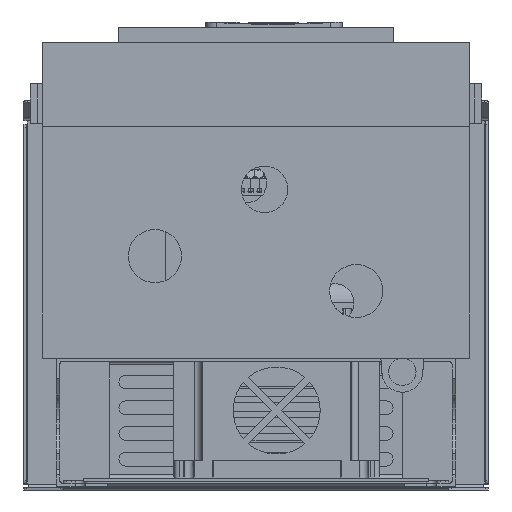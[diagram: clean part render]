
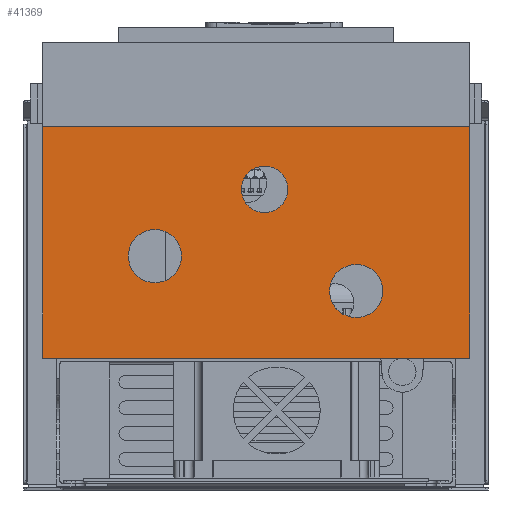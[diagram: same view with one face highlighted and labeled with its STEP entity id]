
A CAD part, front view. The second image highlights one B-rep face of the part: STEP entity #41369.
In plain terms, the highlighted planar face has unit normal (0, -1, 0).
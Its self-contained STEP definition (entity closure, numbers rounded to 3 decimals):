
#38653=DIRECTION('',(1.,0.,0.));
#38654=VECTOR('',#38653,38.847);
#38655=CARTESIAN_POINT('',(85.889,-199.834,
0.));
#38656=LINE('',#38655,#38654);
#38669=DIRECTION('',(1.,0.,0.));
#38670=VECTOR('',#38669,209.421);
#38671=CARTESIAN_POINT('',(-124.521,-199.834,0.));
#38672=LINE('',#38671,#38670);
#38760=DIRECTION('',(1.,0.,0.));
#38761=VECTOR('',#38760,249.257);
#38762=CARTESIAN_POINT('',(-124.521,-199.834,135.));
#38763=LINE('',#38762,#38761);
#38764=CARTESIAN_POINT('',(85.394,-199.834,
-7.985));
#38765=DIRECTION('',(0.,-1.,0.));
#38766=DIRECTION('',(0.062,0.,0.998));
#38767=AXIS2_PLACEMENT_3D('',#38764,#38765,#38766);
#38769=DIRECTION('',(0.,0.,1.));
#38770=VECTOR('',#38769,135.);
#38771=CARTESIAN_POINT('',(-124.521,-199.834,0.));
#38772=LINE('',#38771,#38770);
#38773=CARTESIAN_POINT('',(58.48,-199.834,39.13));
#38774=DIRECTION('',(0.,-1.,0.));
#38775=DIRECTION('',(1.,0.,0.));
#38776=AXIS2_PLACEMENT_3D('',#38773,#38774,#38775);
#38778=CARTESIAN_POINT('',(58.48,-199.834,39.13));
#38779=DIRECTION('',(0.,-1.,0.));
#38780=DIRECTION('',(-1.,0.,0.));
#38781=AXIS2_PLACEMENT_3D('',#38778,#38779,#38780);
#38783=CARTESIAN_POINT('',(5.,-199.834,98.5));
#38784=DIRECTION('',(0.,-1.,0.));
#38785=DIRECTION('',(1.,0.,0.));
#38786=AXIS2_PLACEMENT_3D('',#38783,#38784,#38785);
#38788=CARTESIAN_POINT('',(5.,-199.834,98.5));
#38789=DIRECTION('',(0.,-1.,0.));
#38790=DIRECTION('',(-1.,0.,0.));
#38791=AXIS2_PLACEMENT_3D('',#38788,#38789,#38790);
#38793=CARTESIAN_POINT('',(-59.,-199.834,59.5));
#38794=DIRECTION('',(0.,-1.,0.));
#38795=DIRECTION('',(1.,0.,0.));
#38796=AXIS2_PLACEMENT_3D('',#38793,#38794,#38795);
#38798=CARTESIAN_POINT('',(-59.,-199.834,59.5));
#38799=DIRECTION('',(0.,-1.,0.));
#38800=DIRECTION('',(-1.,0.,0.));
#38801=AXIS2_PLACEMENT_3D('',#38798,#38799,#38800);
#38859=DIRECTION('',(0.,0.,1.));
#38860=VECTOR('',#38859,135.);
#38861=CARTESIAN_POINT('',(124.736,-199.834,0.));
#38862=LINE('',#38861,#38860);
#40570=CARTESIAN_POINT('',(85.889,-199.834,
0.));
#40571=VERTEX_POINT('',#40570);
#40572=CARTESIAN_POINT('',(124.736,-199.834,0.));
#40573=VERTEX_POINT('',#40572);
#40578=CARTESIAN_POINT('',(-124.521,-199.834,0.));
#40579=VERTEX_POINT('',#40578);
#40580=CARTESIAN_POINT('',(84.899,-199.834,
0.));
#40581=VERTEX_POINT('',#40580);
#40610=CARTESIAN_POINT('',(-124.521,-199.834,135.));
#40611=CARTESIAN_POINT('',(124.736,-199.834,135.));
#40612=VERTEX_POINT('',#40610);
#40613=VERTEX_POINT('',#40611);
#40614=CARTESIAN_POINT('',(73.975,-199.834,39.13));
#40615=CARTESIAN_POINT('',(42.985,-199.834,39.13));
#40616=VERTEX_POINT('',#40614);
#40617=VERTEX_POINT('',#40615);
#40618=CARTESIAN_POINT('',(18.577,-199.834,98.5));
#40619=CARTESIAN_POINT('',(-8.577,-199.834,98.5));
#40620=VERTEX_POINT('',#40618);
#40621=VERTEX_POINT('',#40619);
#40622=CARTESIAN_POINT('',(-43.505,-199.834,59.5));
#40623=CARTESIAN_POINT('',(-74.495,-199.834,59.5));
#40624=VERTEX_POINT('',#40622);
#40625=VERTEX_POINT('',#40623);
#41335=CARTESIAN_POINT('',(-124.521,-199.834,0.));
#41336=DIRECTION('',(0.,-1.,0.));
#41337=DIRECTION('',(1.,0.,0.));
#41338=AXIS2_PLACEMENT_3D('',#41335,#41336,#41337);
#41339=PLANE('',#41338);
#41341=ORIENTED_EDGE('',*,*,#41340,.T.);
#41343=ORIENTED_EDGE('',*,*,#41342,.F.);
#41344=ORIENTED_EDGE('',*,*,#41233,.F.);
#41345=ORIENTED_EDGE('',*,*,#41306,.T.);
#41346=ORIENTED_EDGE('',*,*,#41241,.F.);
#41348=ORIENTED_EDGE('',*,*,#41347,.T.);
#41349=EDGE_LOOP('',(#41341,#41343,#41344,#41345,#41346,#41348));
#41350=FACE_OUTER_BOUND('',#41349,.F.);
#41352=ORIENTED_EDGE('',*,*,#41351,.T.);
#41354=ORIENTED_EDGE('',*,*,#41353,.T.);
#41355=EDGE_LOOP('',(#41352,#41354));
#41356=FACE_BOUND('',#41355,.F.);
#41358=ORIENTED_EDGE('',*,*,#41357,.T.);
#41360=ORIENTED_EDGE('',*,*,#41359,.T.);
#41361=EDGE_LOOP('',(#41358,#41360));
#41362=FACE_BOUND('',#41361,.F.);
#41364=ORIENTED_EDGE('',*,*,#41363,.T.);
#41366=ORIENTED_EDGE('',*,*,#41365,.T.);
#41367=EDGE_LOOP('',(#41364,#41366));
#41368=FACE_BOUND('',#41367,.F.);
#41369=ADVANCED_FACE('',(#41350,#41356,#41362,#41368),#41339,.T.);
#38768=CIRCLE('',#38767,8.);
#38777=CIRCLE('',#38776,15.495);
#38782=CIRCLE('',#38781,15.495);
#38787=CIRCLE('',#38786,13.577);
#38792=CIRCLE('',#38791,13.577);
#38797=CIRCLE('',#38796,15.495);
#38802=CIRCLE('',#38801,15.495);
#41233=EDGE_CURVE('',#40571,#40573,#38656,.T.);
#41241=EDGE_CURVE('',#40579,#40581,#38672,.T.);
#41306=EDGE_CURVE('',#40571,#40581,#38768,.T.);
#41340=EDGE_CURVE('',#40612,#40613,#38763,.T.);
#41342=EDGE_CURVE('',#40573,#40613,#38862,.T.);
#41347=EDGE_CURVE('',#40579,#40612,#38772,.T.);
#41351=EDGE_CURVE('',#40616,#40617,#38777,.T.);
#41353=EDGE_CURVE('',#40617,#40616,#38782,.T.);
#41357=EDGE_CURVE('',#40620,#40621,#38787,.T.);
#41359=EDGE_CURVE('',#40621,#40620,#38792,.T.);
#41363=EDGE_CURVE('',#40624,#40625,#38797,.T.);
#41365=EDGE_CURVE('',#40625,#40624,#38802,.T.);
